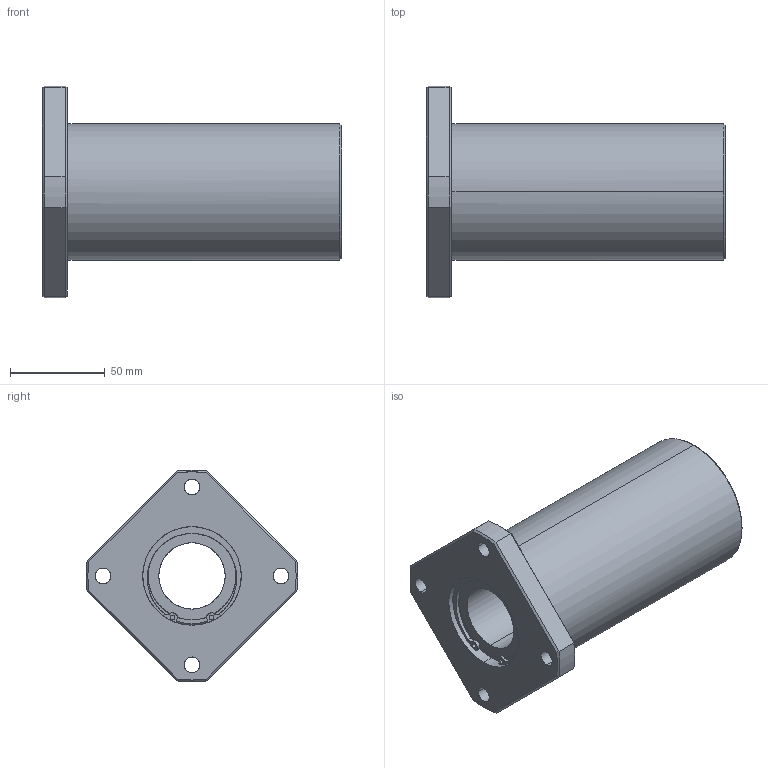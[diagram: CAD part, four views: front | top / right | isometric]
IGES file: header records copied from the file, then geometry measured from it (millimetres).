
Global section: file name: No Iges File Name specified; native system: AutoDesk Inventor R11.0; preprocessor: AutoDesk Inventor Iges Exporter R11.0; author: No Author specified; organization: No Organization specified; date: 20170921.175237; units: millimetre
Bounding box: 158 x 111.86 x 111.93 mm (x, y, z)
Surface area: 72873 mm2 (no closed solid volume)
Topology: 0 solids, 0 shells, 112 faces, 784 edges, 784 vertices
Faces by surface type: bspline 112
